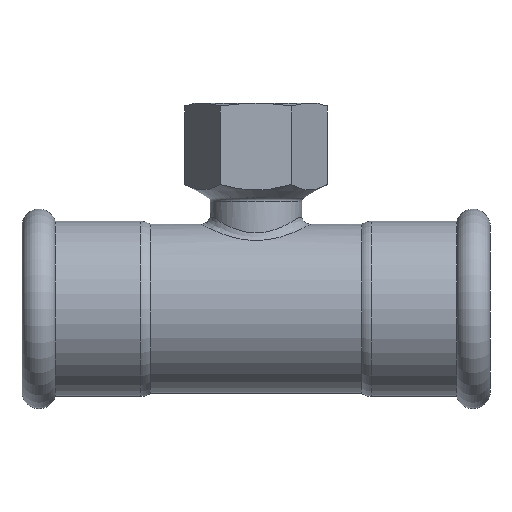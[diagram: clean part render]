
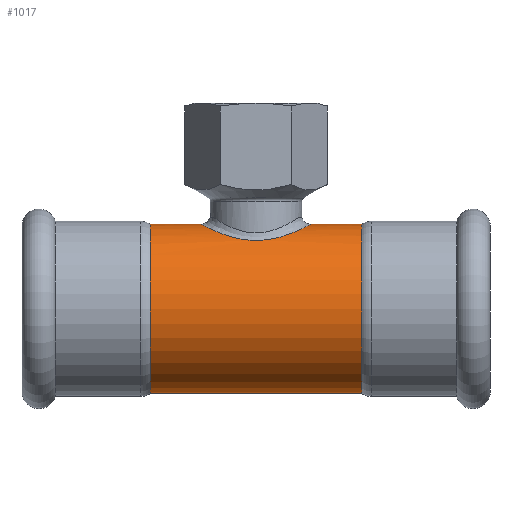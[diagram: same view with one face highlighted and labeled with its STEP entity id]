
A CAD part, front view. The second image highlights one B-rep face of the part: STEP entity #1017.
In plain terms, the highlighted cylindrical face has radius 18.5 mm (diameter 37 mm), a full revolution.
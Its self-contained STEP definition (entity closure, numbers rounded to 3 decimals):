
#22=B_SPLINE_CURVE_WITH_KNOTS('',3,(#2087,#2088,#2089,#2090,#2091,#2092,
#2093,#2094,#2095,#2096,#2097,#2098,#2099,#2100,#2101,#2102,#2103,#2104,
#2105,#2106,#2107,#2108,#2109),.UNSPECIFIED.,.T.,.F.,(4,1,1,1,1,1,1,1,1,
1,1,1,1,1,1,1,1,1,1,1,4),(-6.175,-5.954,-5.734,
-5.293,-4.852,-4.631,-4.411,
-3.823,-3.529,-3.234,-2.94,
-2.646,-2.352,-1.764,-1.617,
-1.47,-1.176,-0.882,-0.441,
-0.221,0.),.UNSPECIFIED.);
#59=FACE_BOUND('',#275,.T.);
#134=LINE('',#2136,#162);
#162=VECTOR('',#1440,18.5);
#179=CYLINDRICAL_SURFACE('',#1156,18.5);
#221=FACE_OUTER_BOUND('',#274,.T.);
#274=EDGE_LOOP('',(#866,#867,#868,#869,#870,#871,#872,#873));
#275=EDGE_LOOP('',(#874));
#359=CIRCLE('',#1157,18.5);
#360=CIRCLE('',#1158,18.5);
#361=CIRCLE('',#1159,18.5);
#362=CIRCLE('',#1160,18.5);
#363=CIRCLE('',#1161,18.5);
#364=CIRCLE('',#1162,18.5);
#473=VERTEX_POINT('',#2085);
#474=VERTEX_POINT('',#2130);
#475=VERTEX_POINT('',#2131);
#476=VERTEX_POINT('',#2133);
#477=VERTEX_POINT('',#2135);
#478=VERTEX_POINT('',#2137);
#479=VERTEX_POINT('',#2139);
#614=EDGE_CURVE('',#473,#473,#22,.T.);
#618=EDGE_CURVE('',#474,#475,#359,.T.);
#619=EDGE_CURVE('',#476,#474,#360,.T.);
#620=EDGE_CURVE('',#476,#477,#134,.T.);
#621=EDGE_CURVE('',#477,#478,#361,.T.);
#622=EDGE_CURVE('',#478,#479,#362,.T.);
#623=EDGE_CURVE('',#479,#477,#363,.T.);
#624=EDGE_CURVE('',#475,#476,#364,.T.);
#866=ORIENTED_EDGE('',*,*,#618,.F.);
#867=ORIENTED_EDGE('',*,*,#619,.F.);
#868=ORIENTED_EDGE('',*,*,#620,.T.);
#869=ORIENTED_EDGE('',*,*,#621,.T.);
#870=ORIENTED_EDGE('',*,*,#622,.T.);
#871=ORIENTED_EDGE('',*,*,#623,.T.);
#872=ORIENTED_EDGE('',*,*,#620,.F.);
#873=ORIENTED_EDGE('',*,*,#624,.F.);
#874=ORIENTED_EDGE('',*,*,#614,.F.);
#1017=ADVANCED_FACE('',(#221,#59),#179,.T.);
#1156=AXIS2_PLACEMENT_3D('',#2129,#1434,#1435);
#1157=AXIS2_PLACEMENT_3D('',#2132,#1436,#1437);
#1158=AXIS2_PLACEMENT_3D('',#2134,#1438,#1439);
#1159=AXIS2_PLACEMENT_3D('',#2138,#1441,#1442);
#1160=AXIS2_PLACEMENT_3D('',#2140,#1443,#1444);
#1161=AXIS2_PLACEMENT_3D('',#2141,#1445,#1446);
#1162=AXIS2_PLACEMENT_3D('',#2142,#1447,#1448);
#1434=DIRECTION('center_axis',(1.,0.,0.));
#1435=DIRECTION('ref_axis',(0.,1.,0.));
#1436=DIRECTION('center_axis',(1.,0.,0.));
#1437=DIRECTION('ref_axis',(0.,1.,0.));
#1438=DIRECTION('center_axis',(1.,0.,0.));
#1439=DIRECTION('ref_axis',(0.,1.,0.));
#1440=DIRECTION('',(-1.,0.,0.));
#1441=DIRECTION('center_axis',(1.,0.,0.));
#1442=DIRECTION('ref_axis',(0.,1.,0.));
#1443=DIRECTION('center_axis',(1.,0.,0.));
#1444=DIRECTION('ref_axis',(0.,1.,0.));
#1445=DIRECTION('center_axis',(1.,0.,0.));
#1446=DIRECTION('ref_axis',(0.,1.,0.));
#1447=DIRECTION('center_axis',(1.,0.,0.));
#1448=DIRECTION('ref_axis',(0.,1.,0.));
#2085=CARTESIAN_POINT('',(0.,10.829,14.999));
#2087=CARTESIAN_POINT('Ctrl Pts',(0.,10.829,
14.999));
#2088=CARTESIAN_POINT('Ctrl Pts',(-0.921,10.829,14.999));
#2089=CARTESIAN_POINT('Ctrl Pts',(-2.761,10.637,15.142));
#2090=CARTESIAN_POINT('Ctrl Pts',(-6.164,9.529,15.89));
#2091=CARTESIAN_POINT('Ctrl Pts',(-9.637,7.029,17.277));
#2092=CARTESIAN_POINT('Ctrl Pts',(-11.678,3.325,18.331));
#2093=CARTESIAN_POINT('Ctrl Pts',(-12.108,0.002,
18.555));
#2094=CARTESIAN_POINT('Ctrl Pts',(-11.605,-3.888,18.297));
#2095=CARTESIAN_POINT('Ctrl Pts',(-9.237,-7.467,17.059));
#2096=CARTESIAN_POINT('Ctrl Pts',(-5.358,-9.861,15.678));
#2097=CARTESIAN_POINT('Ctrl Pts',(-1.876,-10.872,14.971));
#2098=CARTESIAN_POINT('Ctrl Pts',(1.875,-10.871,14.972));
#2099=CARTESIAN_POINT('Ctrl Pts',(5.358,-9.863,15.678));
#2100=CARTESIAN_POINT('Ctrl Pts',(9.237,-7.465,17.059));
#2101=CARTESIAN_POINT('Ctrl Pts',(11.447,-4.128,18.214));
#2102=CARTESIAN_POINT('Ctrl Pts',(12.012,-0.833,18.505));
#2103=CARTESIAN_POINT('Ctrl Pts',(12.013,1.39,18.508));
#2104=CARTESIAN_POINT('Ctrl Pts',(11.303,4.102,18.13));
#2105=CARTESIAN_POINT('Ctrl Pts',(9.173,7.355,17.091));
#2106=CARTESIAN_POINT('Ctrl Pts',(6.165,9.532,15.891));
#2107=CARTESIAN_POINT('Ctrl Pts',(2.76,10.636,15.141));
#2108=CARTESIAN_POINT('Ctrl Pts',(0.921,10.829,14.999));
#2109=CARTESIAN_POINT('Ctrl Pts',(0.,10.829,
14.999));
#2129=CARTESIAN_POINT('Origin',(18.55,0.,0.));
#2130=CARTESIAN_POINT('',(23.15,18.5,0.));
#2131=CARTESIAN_POINT('',(23.15,0.,18.5));
#2132=CARTESIAN_POINT('Origin',(23.15,0.,0.));
#2133=CARTESIAN_POINT('',(23.15,-18.5,0.));
#2134=CARTESIAN_POINT('Origin',(23.15,0.,0.));
#2135=CARTESIAN_POINT('',(-23.15,-18.5,0.));
#2136=CARTESIAN_POINT('',(18.55,-18.5,0.));
#2137=CARTESIAN_POINT('',(-23.15,18.5,0.));
#2138=CARTESIAN_POINT('Origin',(-23.15,0.,0.));
#2139=CARTESIAN_POINT('',(-23.15,0.,18.5));
#2140=CARTESIAN_POINT('Origin',(-23.15,0.,0.));
#2141=CARTESIAN_POINT('Origin',(-23.15,0.,0.));
#2142=CARTESIAN_POINT('Origin',(23.15,0.,0.));
